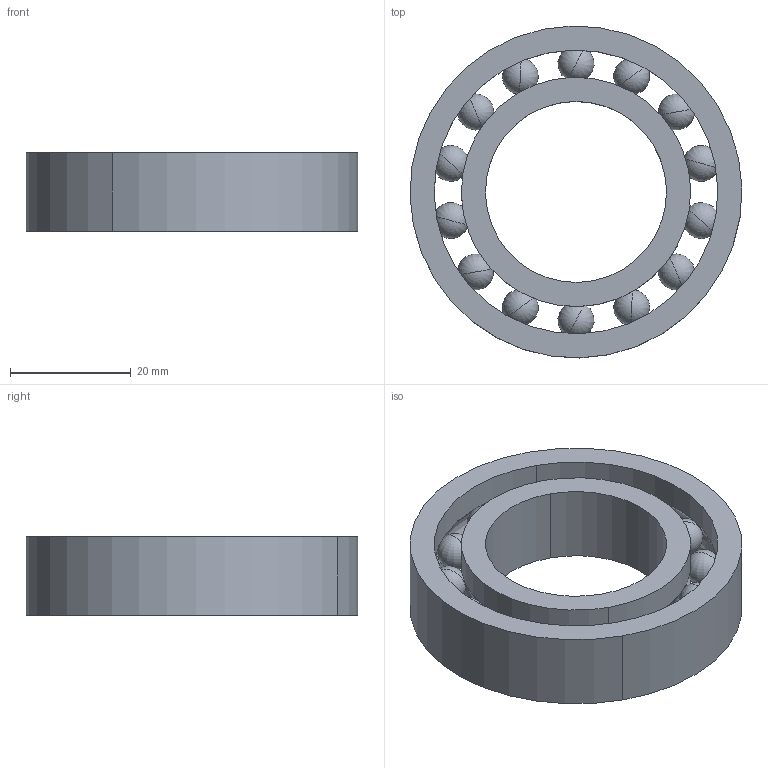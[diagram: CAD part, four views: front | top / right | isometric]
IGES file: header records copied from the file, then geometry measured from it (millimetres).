
Start section: START RECORD GO HERE.
Global section: file name: Bearing_6006.igs; native system: IBM CATIA IGES - CATIA Version 5 Release 18 ; preprocessor: CATIA Version 5 Release 18 ; author: Barry; organization: win764bit; date: 20170723.073212; units: millimetre
Bounding box: 54.98 x 54.98 x 13 mm (x, y, z)
Surface area: 10760.8 mm2 (no closed solid volume)
Topology: 0 solids, 0 shells, 48 faces, 192 edges, 136 vertices
Faces by surface type: revolution 44, plane 4
